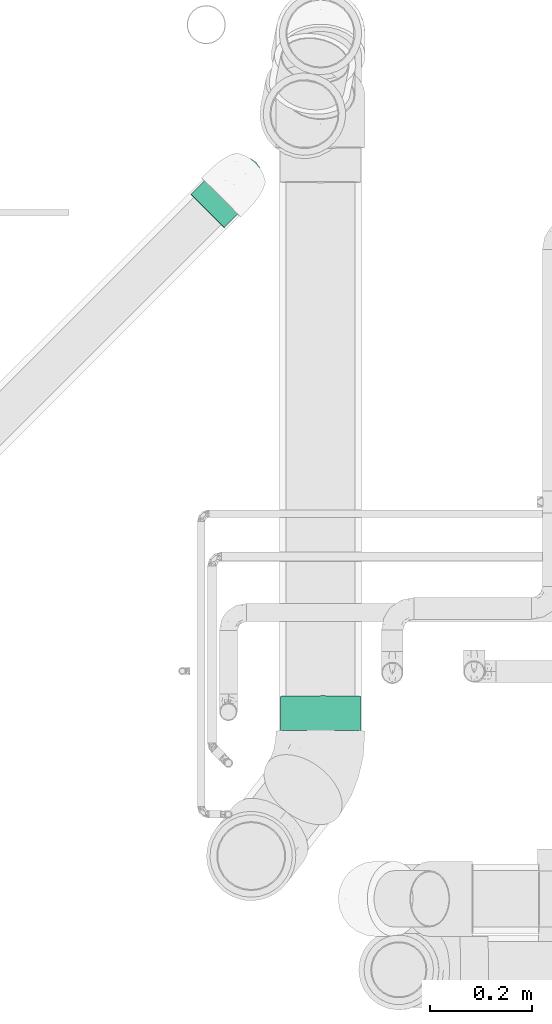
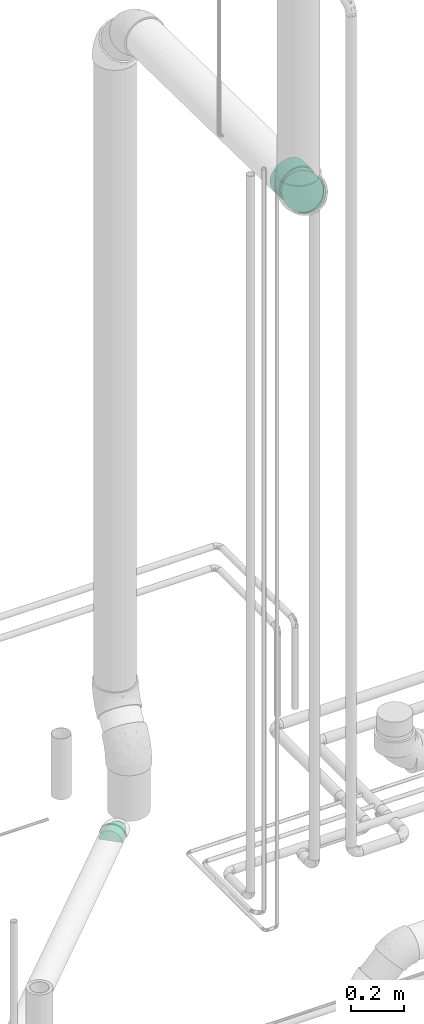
# One storey, part 133 of 156: 2 flow fittings.
"""IFC2X3 building model written with IfcOpenShell, lengths in millimetres."""

from ifc_helpers import new_model, entity, si_unit, converted_unit, derived_unit, direction, frame, origin_with_axes, place, context, subcontext, project, spatial, open_shell, faceted_brep, surface_model, source, transform, mapped, type_object, element, save


model = new_model("IFC2X3")

# Units and contexts
model_context = context("Model", 3, precision=0.01, world=frame((0.0, 4.29681676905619e-09, 0.0)), true_north=direction((4.01073788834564e-13, 1.0)))
plan_context = context("Plan", 3, precision=0.01, world=frame((0.0, 4.29681676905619e-09, 0.0)), true_north=direction((4.01073788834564e-13, 1.0)))
body_context = subcontext(model_context, "Body", "Model", "MODEL_VIEW")
ifc_project = project(units=[converted_unit("PLANEANGLEUNIT", "DEGREE", entity("IfcPositiveLengthMeasure", 0.0174532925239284), si_unit("PLANEANGLEUNIT", "RADIAN"), dimensions=[0, 0, 0, 0, 0, 0, 0]), si_unit("AREAUNIT", "SQUARE_METRE"), si_unit("LENGTHUNIT", "METRE", prefix="MILLI"), si_unit("MASSUNIT", "GRAM", prefix="KILO"), si_unit("POWERUNIT", "WATT"), si_unit("PRESSUREUNIT", "PASCAL", prefix="KILO"), si_unit("FORCEUNIT", "NEWTON", prefix="KILO"), si_unit("ELECTRICVOLTAGEUNIT", "VOLT"), si_unit("ELECTRICCURRENTUNIT", "AMPERE"), si_unit("THERMODYNAMICTEMPERATUREUNIT", "DEGREE_CELSIUS"), si_unit("TIMEUNIT", "SECOND"), si_unit("VOLUMEUNIT", "CUBIC_METRE"), derived_unit("LINEARVELOCITYUNIT", [(si_unit("LENGTHUNIT", "METRE"), 1), (si_unit("TIMEUNIT", "SECOND"), -1)]), derived_unit("VOLUMETRICFLOWRATEUNIT", [(si_unit("VOLUMEUNIT", "CUBIC_METRE"), 1), (si_unit("TIMEUNIT", "SECOND"), -1)]), derived_unit("THERMALTRANSMITTANCEUNIT", [(si_unit("POWERUNIT", "WATT"), 1), (si_unit("THERMODYNAMICTEMPERATUREUNIT", "KELVIN"), -1), (si_unit("AREAUNIT", "SQUARE_METRE"), -1)]), derived_unit("SOUNDPRESSUREUNIT", [(si_unit("PRESSUREUNIT", "PASCAL"), 1)])], contexts=[model_context, plan_context])

# Site, building, storey
site_placement = place(None, frame((0.0, -4.29681676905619e-09, 0.0), z_axis=(0.0, 0.0, 1.0), x_axis=(1.0, 0.0, 0.0)))
site = spatial("IfcSite", under=ifc_project, at=site_placement, CompositionType="ELEMENT")
building_placement = place(site_placement, frame((0.0, 4.29681676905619e-09, 0.0), z_axis=(0.0, 0.0, 1.0), x_axis=(1.0, 0.0, 0.0)))
building = spatial("IfcBuilding", under=site, at=building_placement, Name="mc-building", CompositionType="ELEMENT")
storey_placement = place(building_placement, frame((0.0, 0.0, 205200.0), z_axis=(0.0, 0.0, 1.0), x_axis=(1.0, 0.0, 0.0)))
storey = spatial("IfcBuildingStorey", under=building, at=storey_placement, Name="Nivå D + 1,2 m", CompositionType="ELEMENT", Elevation=205200.0)

# Flow fittings
pipe_fitting_type = type_object("IfcPipeFittingType", Name="magi_sewer_bend_001", PredefinedType="BEND")
shared_shape = source(origin_with_axes(), body_context, "Body", "SurfaceModel", [
    surface_model("IfcShellBasedSurfaceModel", [(-138.35467, -39.625, -68.63251), (-138.35467, 76.54962, -20.51141), (-138.35467, -20.51141, -76.54962), (-138.35467, -56.03821, -56.03821), (-138.35467, -68.63251, -39.625), (-138.35467, -76.54962, -20.51141), (-138.35467, -79.25, 0.0), (-138.35467, -76.54962, 20.51141), (-138.35467, 20.51141, -76.54962), (-138.35467, 68.63251, -39.625), (-138.35467, 39.625, -68.63251), (-138.35467, 0.0, -79.25), (-138.35467, 56.03821, -56.03821), (-138.35467, -68.63251, 39.625), (-138.35467, -56.03821, 56.03821), (-138.35467, -39.625, 68.63251), (-138.35467, -20.51141, 76.54962), (-138.35467, 0.0, 79.25), (-138.35467, 76.54962, 20.51141), (-138.35467, 20.51141, 76.54962), (-138.35467, 56.03821, 56.03821), (-138.35467, 68.63251, 39.625), (-138.35467, 79.25, 0.0), (-138.35467, 39.625, 68.63251), (-70.85467, 0.0, 79.25), (-70.85467, -20.51141, 76.54962), (-70.85467, -39.625, 68.63251), (-70.85467, 20.51141, 76.54962), (-70.85467, -56.03821, 56.03821), (-70.85467, -68.63251, 39.625), (-70.85467, -76.54962, 20.51141), (-70.85467, 56.03821, 56.03821), (-70.85467, 39.625, 68.63251), (-70.85467, 76.54962, 20.51141), (-70.85467, 68.63251, 39.625), (-70.85467, 76.54962, -20.51141), (-70.85467, 79.25, 0.0), (-70.85467, -79.25, 0.0), (-70.85467, -76.54962, -20.51141), (-70.85467, -68.63251, -39.625), (-70.85467, -56.03821, -56.03821), (-70.85467, -39.625, -68.63251), (-70.85467, -20.51141, -76.54962), (-70.85467, 0.0, -79.25), (-70.85467, 68.63251, -39.625), (-70.85467, 39.625, -68.63251), (-70.85467, 56.03821, -56.03821), (-70.85467, 20.51141, -76.54962), (33.69257, 150.72242, 39.625), (27.53852, 155.70321, -20.51141), (27.53852, 155.70321, 20.51141), (43.48225, 142.79912, 56.03821), (71.0976, 120.4486, -76.54962), (56.24041, 132.47329, 68.63251), (71.0976, 120.4486, 76.54962), (87.04133, 107.54451, 79.25), (87.04133, 107.54451, -79.25), (33.69257, 150.72242, -39.625), (25.43949, 157.40206, 0.0), (43.48225, 142.79912, -56.03821), (56.24041, 132.47329, -68.63251), (140.39009, 64.3666, 39.625), (102.98507, 94.64043, 76.54962), (117.84225, 82.61573, 68.63251), (130.60041, 72.2899, 56.03821), (146.54414, 59.38581, -20.51141), (146.54414, 59.38581, 20.51141), (148.64317, 57.68696, 0.0), (102.98507, 94.64043, -76.54962), (130.60041, 72.2899, -56.03821), (117.84225, 82.61573, -68.63251), (140.39009, 64.3666, -39.625), (104.07871, 6.91737, 20.51141), (60.51963, 42.17198, -76.54962), (106.17775, 5.21851, 0.0), (60.51963, 42.17198, 76.54962), (97.92466, 11.89816, 39.625), (75.37683, 30.14729, 68.63251), (88.13499, 19.82145, 56.03821), (104.07871, 6.91737, -20.51141), (88.13499, 19.82145, -56.03821), (97.92466, 11.89816, -39.625), (75.37683, 30.14729, -68.63251), (28.63218, 67.98015, -76.54962), (44.57591, 55.07607, -79.25), (44.57591, 55.07607, 79.25), (28.63218, 67.98015, 76.54962), (13.77499, 80.00485, 68.63251), (-14.9269, 103.23477, -20.51141), (1.01683, 90.33068, 56.03821), (-8.77285, 98.25398, 39.625), (-14.9269, 103.23477, 20.51141), (1.01683, 90.33068, -56.03821), (13.77499, 80.00485, -68.63251), (-8.77285, 98.25398, -39.625), (-17.02593, 104.93362, 0.0), (-70.85467, 0.0, -74.25), (-70.85467, -52.50268, -52.50268), (-70.85467, 19.21731, -71.71999), (-70.85467, 37.125, -64.30238), (-70.85467, 52.50268, -52.50268), (-70.85467, 71.71999, -19.21731), (-70.85467, 64.30238, -37.125), (-70.85467, -64.30238, -37.125), (-70.85467, -37.125, -64.30238), (-70.85467, -19.21731, -71.71999), (-70.85467, -71.71999, -19.21731), (-70.85467, -74.25, 0.0), (-70.85467, -71.71999, 19.21731), (-70.85467, 71.71999, 19.21731), (-70.85467, 19.21731, 71.71999), (-70.85467, 64.30238, 37.125), (-70.85467, 52.50268, 52.50268), (-70.85467, 37.125, 64.30238), (-70.85467, 0.0, 74.25), (-70.85467, -64.30238, 37.125), (-70.85467, -52.50268, 52.50268), (-70.85467, -37.125, 64.30238), (-70.85467, -19.21731, 71.71999), (-70.85467, 74.25, 0.0), (29.63809, 67.16601, -71.71999), (85.38678, 22.04572, -52.50268), (44.57591, 55.07607, -74.25), (3.76503, 88.10641, -52.50268), (15.71826, 78.43205, -64.30238), (-5.407, 95.52982, -37.125), (-11.17278, 100.19636, -19.21731), (100.3246, 9.95577, -19.21731), (59.51372, 42.98612, -71.71999), (73.43355, 31.72008, -64.30238), (94.55882, 14.62232, -37.125), (100.3246, 9.95577, 19.21731), (102.29119, 8.3641, 0.0), (-11.17278, 100.19636, 19.21731), (3.76503, 88.10641, 52.50268), (-5.407, 95.52982, 37.125), (15.71826, 78.43205, 64.30238), (29.63809, 67.16601, 71.71999), (44.57591, 55.07607, 74.25), (85.38678, 22.04572, 52.50268), (94.55882, 14.62232, 37.125), (73.43355, 31.72008, 64.30238), (59.51372, 42.98612, 71.71999), (-13.13938, 101.78804, 0.0), (-20.00351, -54.72065, 42.35262), (-33.51824, -66.33954, 25.97132), (-41.72114, -71.31136, 12.24336), (-21.68013, -68.75429, 0.0), (-33.07499, 11.95573, 73.93561), (30.36894, 23.84422, 73.26108), (-33.92031, -43.67813, 57.32088), (-25.57432, -25.54051, 67.31432), (14.55786, -30.51093, 55.03336), (-31.31511, 65.63143, 47.96075), (-0.51886, 1.08745, 72.75337), (-37.63998, -8.60527, 73.26108), (-39.94301, 47.71998, 60.47043), (6.64518, 54.40139, 69.32357), (-11.72478, -64.83301, 14.21815), (72.65331, -15.68128, 25.97132), (-17.37954, 36.42473, 70.15382), (-46.46736, 29.05949, 69.32357), (16.95867, -51.48169, 25.00712), (20.12742, -41.13153, 41.11404), (6.29946, -13.20267, 67.62137), (35.94215, 3.8112, 67.31432), (-38.18042, 80.02002, 15.45203), (-53.34192, 69.9283, 29.81657), (55.29132, -1.11206, 57.32088), (-49.13989, 77.49626, 0.0), (-30.99687, 78.04096, 30.826), (45.39792, -34.4366, 29.24091), (55.11948, -18.87679, 42.35262), (11.51474, 33.23108, 73.93561), (25.06793, -52.53835, 0.0), (-10.20801, 62.4681, 60.35974), (81.67854, -12.43295, 12.24336), (39.6658, -43.35938, 14.01431), (-11.40113, 10.30798, 74.22469), (-11.64959, 24.41567, 73.42843), (-29.32388, 86.95119, 0.0), (61.84954, -28.43837, 15.22055), (67.08277, -26.40233, 0.0), (65.24492, -10.04704, -43.11396), (45.98542, -9.30833, -56.77158), (24.00125, 18.1764, -73.15772), (-21.65452, 71.74338, -47.18581), (-47.62232, 60.66243, -46.8024), (-35.90498, 75.25107, -31.27839), (-36.77338, 30.6865, -69.60266), (-2.53212, 5.30692, -73.55193), (6.27804, -16.28591, -66.29117), (-29.22831, -7.22133, -73.15772), (-38.17368, 80.00589, -15.52545), (43.0761, 10.14818, -67.59484), (-0.71816, 47.88974, -69.60266), (19.17833, -51.94742, -20.93098), (-21.92423, -64.2932, -25.19026), (14.19958, -44.46014, -40.28086), (-42.10983, 10.48081, -73.86828), (-9.02449, 18.91388, -74.08689), (-33.53244, -57.07798, -43.13076), (-22.95974, -41.85313, -56.82913), (43.6496, -31.55201, -36.11057), (63.76868, -23.40603, -25.19026), (42.65931, -22.92671, -47.45866), (-34.98821, -27.0991, -67.59484), (13.46656, -29.71902, -56.08263), (-50.44932, 45.82758, -59.94091), (-24.99009, 52.37519, -61.23374), (-3.88371, 68.0457, -59.94091), (18.34519, 39.32606, -73.86828)], [open_shell([[[0, 1, 2]], [[3, 1, 0]], [[4, 5, 6]], [[3, 4, 7]], [[3, 7, 1]], [[8, 9, 10]], [[1, 8, 11]], [[10, 9, 12]], [[9, 8, 1]], [[11, 2, 1]], [[7, 4, 6]], [[7, 13, 14]], [[7, 14, 15]], [[15, 16, 17]], [[15, 18, 1]], [[19, 15, 17]], [[18, 20, 21]], [[22, 1, 18]], [[20, 19, 23]], [[19, 20, 18]], [[15, 19, 18]], [[1, 7, 15]], [[24, 25, 26]], [[27, 24, 26]], [[28, 29, 30]], [[28, 30, 26]], [[27, 26, 30]], [[27, 31, 32]], [[31, 27, 33]], [[31, 33, 34]], [[27, 30, 33]], [[33, 35, 36]], [[33, 30, 35]], [[37, 38, 39]], [[37, 39, 40]], [[41, 42, 37]], [[41, 37, 40]], [[37, 42, 43]], [[44, 45, 46]], [[47, 44, 35]], [[44, 47, 45]], [[47, 35, 43]], [[35, 37, 43]], [[37, 35, 30]], [[1, 36, 35]], [[10, 45, 47]], [[45, 12, 46]], [[8, 47, 43]], [[35, 9, 1]], [[1, 22, 36]], [[44, 12, 9]], [[44, 46, 12]], [[12, 45, 10]], [[47, 8, 10]], [[44, 9, 35]], [[43, 11, 8]], [[2, 42, 41]], [[40, 0, 41]], [[4, 39, 38]], [[40, 39, 3]], [[5, 38, 37]], [[42, 2, 11]], [[41, 0, 2]], [[40, 3, 0]], [[39, 4, 3]], [[5, 4, 38]], [[37, 6, 5]], [[42, 11, 43]], [[30, 7, 37]], [[29, 13, 30]], [[29, 28, 14]], [[28, 26, 15]], [[30, 13, 7]], [[7, 6, 37]], [[25, 16, 15]], [[16, 25, 24]], [[14, 28, 15]], [[14, 13, 29]], [[26, 25, 15]], [[24, 17, 16]], [[19, 27, 32]], [[31, 23, 32]], [[21, 34, 33]], [[31, 34, 20]], [[18, 33, 36]], [[27, 19, 17]], [[32, 23, 19]], [[31, 20, 23]], [[34, 21, 20]], [[18, 21, 33]], [[36, 22, 18]], [[27, 17, 24]], [[48, 49, 50]], [[51, 52, 48]], [[53, 54, 55]], [[51, 53, 56]], [[51, 56, 52]], [[49, 52, 57]], [[49, 58, 50]], [[59, 52, 60]], [[52, 59, 57]], [[48, 52, 49]], [[56, 53, 55]], [[61, 62, 63]], [[61, 63, 64]], [[65, 61, 66]], [[61, 65, 62]], [[65, 66, 67]], [[68, 69, 70]], [[56, 55, 68]], [[69, 65, 71]], [[69, 68, 62]], [[65, 69, 62]], [[68, 55, 62]], [[72, 73, 74]], [[75, 72, 76]], [[77, 75, 76]], [[77, 76, 78]], [[73, 72, 75]], [[79, 80, 81]], [[79, 74, 80]], [[80, 73, 82]], [[74, 73, 80]], [[73, 83, 84]], [[73, 75, 83]], [[85, 86, 87]], [[75, 87, 83]], [[88, 89, 90]], [[87, 89, 88]], [[88, 90, 91]], [[83, 92, 93]], [[92, 83, 94]], [[83, 88, 94]], [[83, 87, 88]], [[91, 95, 88]], [[87, 75, 85]], [[52, 84, 83]], [[57, 94, 88]], [[94, 59, 92]], [[49, 88, 95]], [[83, 60, 52]], [[52, 56, 84]], [[93, 59, 60]], [[93, 92, 59]], [[59, 94, 57]], [[88, 49, 57]], [[93, 60, 83]], [[95, 58, 49]], [[50, 91, 90]], [[89, 48, 90]], [[53, 87, 86]], [[89, 87, 51]], [[54, 86, 85]], [[91, 50, 58]], [[90, 48, 50]], [[89, 51, 48]], [[87, 53, 51]], [[54, 53, 86]], [[85, 55, 54]], [[91, 58, 95]], [[75, 62, 85]], [[77, 63, 75]], [[77, 78, 64]], [[78, 76, 61]], [[75, 63, 62]], [[62, 55, 85]], [[72, 66, 61]], [[66, 72, 74]], [[64, 78, 61]], [[64, 63, 77]], [[76, 72, 61]], [[74, 67, 66]], [[65, 79, 81]], [[80, 71, 81]], [[70, 82, 73]], [[80, 82, 69]], [[68, 73, 84]], [[79, 65, 67]], [[81, 71, 65]], [[80, 69, 71]], [[82, 70, 69]], [[68, 70, 73]], [[84, 56, 68]], [[79, 67, 74]], [[96, 97, 98]], [[99, 98, 100]], [[101, 102, 100]], [[100, 98, 97]], [[101, 100, 103]], [[104, 97, 105]], [[97, 96, 105]], [[97, 103, 100]], [[101, 103, 106]], [[107, 108, 106]], [[109, 101, 106]], [[110, 109, 106]], [[111, 109, 112]], [[109, 110, 113]], [[112, 109, 113]], [[106, 114, 110]], [[115, 116, 108]], [[117, 108, 116]], [[118, 114, 117]], [[106, 108, 117]], [[106, 117, 114]], [[119, 101, 109]], [[120, 121, 122]], [[123, 120, 124]], [[123, 125, 126]], [[123, 126, 120]], [[127, 120, 126]], [[128, 121, 129]], [[128, 122, 121]], [[121, 127, 130]], [[120, 127, 121]], [[127, 131, 132]], [[127, 126, 131]], [[131, 126, 133]], [[134, 133, 135]], [[136, 137, 133]], [[136, 133, 134]], [[138, 133, 137]], [[131, 139, 140]], [[139, 131, 141]], [[141, 138, 142]], [[138, 141, 131]], [[131, 133, 138]], [[133, 126, 143]], [[144, 115, 145]], [[146, 107, 147]], [[110, 114, 148]], [[142, 138, 149]], [[117, 150, 151]], [[151, 150, 152]], [[134, 135, 153]], [[154, 155, 151]], [[155, 114, 118]], [[112, 113, 156]], [[118, 117, 151]], [[137, 136, 157]], [[158, 145, 146]], [[156, 153, 112]], [[140, 159, 131]], [[153, 111, 112]], [[160, 161, 148]], [[144, 162, 163]], [[164, 152, 165]], [[166, 109, 167]], [[139, 141, 168]], [[169, 119, 109]], [[153, 170, 167]], [[151, 164, 154]], [[110, 161, 113]], [[117, 116, 150]], [[145, 162, 144]], [[145, 115, 108]], [[165, 142, 149]], [[162, 171, 163]], [[133, 166, 170]], [[165, 141, 142]], [[140, 139, 172]], [[137, 157, 173]], [[158, 174, 162]], [[172, 159, 140]], [[160, 157, 175]], [[165, 168, 141]], [[108, 146, 145]], [[132, 131, 176]], [[162, 177, 171]], [[161, 156, 113]], [[178, 173, 179]], [[169, 166, 180]], [[116, 115, 144]], [[143, 180, 133]], [[155, 148, 114]], [[170, 153, 135]], [[111, 167, 109]], [[134, 175, 136]], [[173, 178, 149]], [[133, 170, 135]], [[166, 133, 180]], [[153, 156, 175]], [[137, 173, 138]], [[148, 179, 160]], [[109, 166, 169]], [[171, 177, 181]], [[171, 159, 172]], [[168, 152, 172]], [[176, 131, 159]], [[116, 144, 150]], [[152, 150, 144]], [[152, 168, 165]], [[172, 139, 168]], [[153, 175, 134]], [[160, 175, 156]], [[151, 155, 118]], [[155, 154, 178]], [[173, 149, 138]], [[165, 149, 154]], [[148, 161, 110]], [[156, 161, 160]], [[175, 157, 136]], [[173, 157, 160]], [[163, 172, 152]], [[162, 174, 177]], [[172, 163, 171]], [[144, 163, 152]], [[174, 182, 177]], [[182, 176, 181]], [[152, 164, 151]], [[165, 154, 164]], [[178, 179, 148]], [[173, 160, 179]], [[155, 178, 148]], [[178, 154, 149]], [[153, 167, 111]], [[166, 167, 170]], [[107, 146, 108]], [[158, 146, 147]], [[174, 158, 147]], [[162, 145, 158]], [[181, 176, 159]], [[132, 176, 182]], [[171, 181, 159]], [[182, 181, 177]], [[121, 183, 184]], [[122, 128, 185]], [[186, 187, 188]], [[99, 189, 98]], [[119, 169, 101]], [[190, 191, 192]], [[193, 101, 169]], [[128, 194, 185]], [[100, 102, 187]], [[124, 120, 195]], [[196, 197, 198]], [[199, 96, 98]], [[103, 197, 106]], [[185, 190, 200]], [[147, 107, 106]], [[198, 201, 202]], [[106, 197, 147]], [[203, 183, 204]], [[97, 104, 202]], [[183, 203, 205]], [[97, 201, 103]], [[105, 206, 104]], [[105, 96, 192]], [[207, 191, 184]], [[126, 193, 180]], [[101, 193, 188]], [[193, 169, 180]], [[130, 204, 183]], [[180, 143, 126]], [[125, 123, 186]], [[102, 101, 188]], [[208, 189, 99]], [[201, 97, 202]], [[188, 125, 186]], [[195, 209, 210]], [[192, 206, 105]], [[211, 120, 122]], [[123, 124, 210]], [[96, 199, 192]], [[208, 99, 100]], [[174, 204, 182]], [[211, 185, 200]], [[185, 194, 191]], [[191, 207, 202]], [[121, 130, 183]], [[196, 204, 174]], [[197, 196, 147]], [[184, 129, 121]], [[127, 182, 204]], [[128, 129, 194]], [[132, 182, 127]], [[211, 195, 120]], [[200, 199, 189]], [[127, 204, 130]], [[126, 125, 188]], [[201, 198, 197]], [[209, 195, 189]], [[193, 126, 188]], [[200, 189, 195]], [[206, 191, 202]], [[197, 103, 201]], [[210, 186, 123]], [[209, 208, 187]], [[129, 184, 194]], [[191, 194, 184]], [[191, 206, 192]], [[202, 104, 206]], [[189, 199, 98]], [[192, 199, 200]], [[185, 211, 122]], [[195, 211, 200]], [[188, 187, 102]], [[209, 187, 186]], [[196, 198, 203]], [[147, 196, 174]], [[187, 208, 100]], [[189, 208, 209]], [[195, 210, 124]], [[186, 210, 209]], [[205, 184, 183]], [[198, 202, 207]], [[191, 190, 185]], [[192, 200, 190]], [[196, 203, 204]], [[198, 207, 205]], [[198, 205, 203]], [[207, 184, 205]]])]),
])
flow_fitting_1_placement = place(storey_placement, frame((324308.8595, 462982.08154, 7541.05024000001), z_axis=(-0.782815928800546, -0.0103689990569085, -0.622166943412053), x_axis=(-1.81753429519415e-07, -0.999861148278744, 0.0166638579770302)))
element("IfcFlowFitting", 1, at=flow_fitting_1_placement, inside=storey, type_object=pipe_fitting_type, Name="magi_sewer_bend_001", context=body_context, shape_type="MappedRepresentation", body=[
    mapped(shared_shape, transform((0.0, 0.0, 0.0), scale=1.0)),
])
flow_fitting_2_placement = place(storey_placement, frame((324137.78707, 464119.04373, 3998.53398000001), z_axis=(0.707056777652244, -0.707156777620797, -7.09999776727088e-05), x_axis=(-0.499999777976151, -0.500000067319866, 0.707106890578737)))
element("IfcFlowFitting", 2, at=flow_fitting_2_placement, inside=storey, type_object=pipe_fitting_type, Name="magi_sewer_bend_001", context=body_context, shape_type="Brep", body=[
    faceted_brep([(-33.36978, -35.4453125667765, 22.4718144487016), (-33.36978, -35.4422382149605, -8.14642996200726), (-33.36978, -44.67407, -11.97038), (-33.36978, -35.4418542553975, -11.97038), (-33.36978, -35.4416058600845, -14.4442115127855), (-33.36978, -35.441319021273, -17.3009115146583), (-33.36978, -35.4409271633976, -21.2035228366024), (-33.36978, -35.4406460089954, -24.0036103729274), (-33.36978, -35.4402483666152, -27.9638310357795), (-33.36978, -35.4401305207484, -29.1374877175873), (-33.36978, -40.05367, -23.125), (-33.36978, -35.4458630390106, 27.9541061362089), (-33.36978, -44.67407, 11.97038), (-33.36978, -46.25, 0.0), (-33.36978, -35.4459810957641, 29.1298630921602), (-33.36978, -40.05367, 23.125), (-37.2227849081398, -39.2984830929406, 24.109179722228), (-37.9780703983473, -40.05367, 23.125), (-41.5869062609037, -43.6616323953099, 14.4146178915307), (-42.5995889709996, -44.67407, 11.97038), (-43.7405582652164, -45.8141701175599, 3.31045751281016), (-44.1767204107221, -46.25, 0.0), (-43.741196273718, -45.8141433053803, -3.31066117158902), (-42.6019928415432, -44.67407, -11.97038), (-41.5894835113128, -43.6613148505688, -14.4153845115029), (-37.982714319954, -40.05367, -23.125), (-37.2268331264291, -39.2976896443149, -24.1102137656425), (51.1410901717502, 49.0632004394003, 46.2120810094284), (51.1388636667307, 49.0655073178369, 1.06296587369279), (59.26292, 40.66599, 44.67407), (51.1366845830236, 49.0677586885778, -43.0610531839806), (67.01786, 32.6481, -40.05367), (81.99925, 17.15874, -11.97038), (73.67718, 25.76299, -32.70369), (78.78704, 20.47985, -23.125), (73.67718, 25.76299, 32.70369), (78.78704, 20.47985, 23.125), (83.09486, 16.02596, 0.0), (81.99925, 17.15874, 11.97038), (67.01786, 32.6481, 40.05367), (51.1366057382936, 49.0678418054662, -44.67407), (59.26292, 40.66599, -44.67407), (51.1365273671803, 49.0679179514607, -46.2129450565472), (51.83223, -5.59097, 23.125), (55.04443, -8.91209, 11.97038), (56.14006, -10.04486, 0.0), (46.72236, -0.30784, 32.70369), (40.06304, 6.57727, -40.05367), (46.72236, -0.30784, -32.70369), (55.04443, -8.91209, -11.97038), (51.83223, -5.59097, -23.125), (24.6192943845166, 22.5446732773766, 13.5759612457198), (24.6206606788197, 22.5432636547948, 41.2220212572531), (24.6165024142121, 22.5475599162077, -42.978746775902), (24.6164214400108, 22.5476491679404, -44.67407), (32.30811, 14.59516, -44.67407), (24.6163518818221, 22.5477258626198, -46.1306393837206), (24.6208323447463, 22.5430887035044, 44.67407), (32.30811, 14.59516, 44.67407), (24.6209065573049, 22.5430167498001, 46.1297768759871), (40.06304, 6.57727, 40.05367), (26.525288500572, 24.4566636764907, -46.1365637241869), (26.5436396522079, 24.4657498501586, 46.1357439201), (-33.36978, -35.4415421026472, -15.0791878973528), (-33.36978, -35.4419841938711, -10.67629), (-33.36978, -39.84444, -10.67629), (-33.36978, -35.4420423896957, -10.0967031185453), (-33.36978, -35.4421672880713, -8.85280872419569), (-33.36978, -35.4441863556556, 11.2555941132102), (-33.36978, -39.84444, 10.67629), (-33.36978, -35.4442465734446, 11.855318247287), (-33.36978, -35.4443832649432, 13.2166633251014), (-33.36978, -35.4445699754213, 15.0761600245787), (-33.36978, -35.4448933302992, 18.2965327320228), (-33.36978, -35.4451635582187, 20.9878006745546), (-33.36978, -35.72355, 20.625), (-33.36978, -41.25, 0.0), (-33.36978, -35.4409634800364, -20.8418362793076), (-33.36978, -35.72355, -20.625), (-33.36978, -35.4409568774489, -20.9075931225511), (-33.36978, -35.4409482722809, -20.9932941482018), (24.6167356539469, 22.5473253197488, -38.319447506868), (24.6166047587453, 22.547464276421, -41.0069707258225), (38.32499, 8.37426, -35.72355), (24.6165984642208, 22.5474703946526, -41.1305925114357), (31.40842, 15.52535, -39.84444), (24.6169896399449, 22.5470580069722, -33.127700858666), (24.6175826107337, 22.5464442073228, -21.109168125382), (51.68677, -5.44058, -10.67629), (48.82183, -2.4785, -20.625), (44.26438, 2.23348, -29.16816), (24.6180420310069, 22.5459692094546, -11.8030609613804), (51.68677, -5.44058, 10.67629), (52.66395, -6.45089, 0.0), (24.6183582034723, 22.5456475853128, -5.45108284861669), (24.6189960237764, 22.544986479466, 7.48525198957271), (44.26438, 2.23348, 29.16816), (48.82183, -2.4785, 20.625), (24.6192605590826, 22.5447119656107, 12.8537792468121), (24.6194875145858, 22.5444760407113, 17.4637225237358), (24.6198828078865, 22.5440696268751, 25.4481271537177), (24.6203933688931, 22.5435407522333, 35.800130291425), (31.40842, 15.52535, 39.84444), (24.6206594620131, 22.5432716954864, 41.1298234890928), (38.32499, 8.37426, 35.72355), (10.3854, -25.6758, 23.0785), (-6.9773, -35.75424, 14.37656), (-12.58846, -31.54436, 24.17669), (15.4186, -27.5228, 16.38787), (30.97886, -13.92216, 24.17669), (29.87238, -20.8492, 14.37656), (32.44003, -21.57267, 7.10056), (12.64855, -31.27098, 9.13674), (27.31044, -25.35163, 0.0), (12.65242, -31.28053, 0.0), (12.64855, -31.27098, -9.13674), (-2.0056, -37.20944, 0.0), (-8.31994, -38.05935, -7.10056), (-12.96975, -38.62192, 0.0), (-8.31994, -38.05935, 7.10056), (-6.9773, -35.75424, -14.37656), (-12.58846, -31.54436, -24.17669), (8.05165, -30.5026, -16.38787), (29.87238, -20.8492, -14.37656), (10.3854, -25.6758, -23.0785), (30.97886, -13.92216, -24.17669), (22.44563, -10.77623, -31.86051), (22.04519, 0.22499, -37.71977), (4.23177, -10.46219, -37.22197), (11.20741, 5.2927, -40.7101), (4.74994835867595, 2.68077182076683, -40.7101), (-4.75044506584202, -6.81977780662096, -39.1841884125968), (8.17361530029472, 6.104447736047, -40.7887491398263), (20.7901842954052, 18.7210534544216, -41.1149743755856), (11.0314581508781, 8.96229174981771, -40.7913837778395), (-12.2050317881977, -14.2820793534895, 37.6263475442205), (-4.74484655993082, -6.82204807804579, 39.182965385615), (4.23177, -10.46219, 37.22197), (4.76367645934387, 2.68632459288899, 40.7101), (11.20741, 5.2927, 40.7101), (8.1800773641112, 6.10271869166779, 40.7885816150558), (10.3593918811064, 8.28204374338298, 40.6904885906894), (20.7696098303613, 18.692222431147, 41.1141050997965), (22.04519, 0.22499, 37.71977), (22.44563, -10.77623, 31.86051), (6.80695, -16.8288, 33.07735), (-8.64193, -23.35059, 31.86051), (-14.6224011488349, -16.6993485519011, 36.6212362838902), (-20.0198287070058, -22.0964782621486, 33.6379907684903), (-25.160527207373, -27.236819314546, 30.0619773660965), (-27.7362480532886, -29.8123153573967, 27.8150406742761), (-14.6258831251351, -16.6954760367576, -36.6240080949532), (-20.0259132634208, -22.0958076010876, -33.6389413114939), (-8.64193, -23.35059, -31.86051), (-12.2148755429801, -14.2843670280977, -37.6265897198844), (6.80695, -16.8288, -33.07735), (-25.1684213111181, -27.238676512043, -30.0611178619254), (-27.7412607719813, -29.8117421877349, -27.8162446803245), (32.44003, -21.57267, -7.10056), (36.1734, -18.74439, 0.0), (-33.36978, -35.4581359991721, -20.970894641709)], [[[0, 1, 2]], [[1, 3, 2]], [[3, 4, 2]], [[4, 5, 2]], [[5, 6, 2]], [[6, 7, 2]], [[7, 8, 2]], [[8, 9, 10, 2]], [[11, 0, 2, 12]], [[13, 12, 2]], [[14, 11, 12, 15]], [[16, 14, 15]], [[17, 16, 15]], [[18, 17, 15, 12]], [[19, 18, 12]], [[20, 19, 12, 13]], [[21, 20, 13]], [[22, 21, 13]], [[23, 22, 13, 2]], [[24, 23, 2]], [[25, 24, 2, 10]], [[26, 25, 10]], [[9, 26, 10]], [[27, 28, 29]], [[28, 30, 31, 29]], [[31, 32, 29]], [[31, 33, 32]], [[34, 32, 33]], [[35, 29, 32]], [[36, 35, 32]], [[37, 36, 32]], [[37, 38, 36]], [[35, 39, 29]], [[30, 40, 41, 31]], [[40, 42, 41]], [[43, 44, 45]], [[46, 43, 45]], [[47, 46, 45]], [[47, 45, 48]], [[48, 45, 49]], [[50, 48, 49]], [[51, 52, 46, 47]], [[53, 51, 47]], [[54, 53, 47, 55]], [[56, 54, 55]], [[52, 57, 58, 46]], [[57, 59, 58]], [[58, 60, 46]], [[42, 61, 41]], [[61, 56, 55, 41]], [[55, 31, 41]], [[47, 31, 55]], [[33, 31, 47]], [[33, 47, 48]], [[34, 33, 48]], [[50, 34, 48]], [[32, 34, 50]], [[49, 32, 50]], [[49, 37, 32]], [[45, 37, 49]], [[37, 45, 44]], [[44, 38, 37]], [[44, 43, 38]], [[43, 36, 38]], [[43, 46, 36]], [[36, 46, 35]], [[35, 46, 60]], [[60, 39, 35]], [[58, 39, 60]], [[29, 39, 58]], [[59, 62, 29, 58]], [[62, 27, 29]], [[63, 64, 65]], [[64, 66, 65]], [[66, 67, 65]], [[67, 68, 69, 65]], [[68, 70, 69]], [[70, 71, 69]], [[71, 72, 69]], [[72, 73, 69]], [[73, 74, 75, 69]], [[65, 69, 76]], [[77, 63, 65, 78]], [[79, 77, 78]], [[80, 79, 78]], [[81, 82, 83]], [[82, 84, 85, 83]], [[86, 81, 83]], [[87, 86, 83, 88]], [[89, 88, 83]], [[90, 89, 83]], [[91, 87, 88, 92]], [[93, 92, 88]], [[94, 91, 92]], [[95, 94, 92, 96]], [[97, 96, 92]], [[98, 95, 96]], [[99, 98, 96]], [[100, 99, 96]], [[101, 100, 96, 102]], [[103, 101, 102]], [[104, 102, 96]], [[105, 106, 107]], [[105, 108, 106]], [[108, 105, 109]], [[110, 108, 109]], [[109, 97, 110]], [[97, 92, 110]], [[110, 92, 111]], [[110, 111, 112]], [[113, 112, 111]], [[114, 112, 113]], [[114, 113, 115]], [[114, 115, 116]], [[115, 117, 116]], [[116, 117, 118]], [[118, 117, 65]], [[65, 76, 118]], [[118, 76, 69]], [[119, 118, 69]], [[106, 119, 69]], [[106, 69, 75]], [[112, 119, 106]], [[119, 112, 116]], [[120, 65, 117]], [[120, 78, 65]], [[78, 120, 121]], [[120, 122, 121]], [[120, 115, 122]], [[115, 123, 122]], [[124, 122, 123]], [[123, 125, 124]], [[89, 125, 123]], [[90, 125, 89]], [[90, 126, 125]], [[126, 90, 83]], [[83, 127, 126]], [[126, 127, 128]], [[128, 127, 129]], [[130, 131, 128, 129]], [[132, 130, 129]], [[133, 134, 129]], [[84, 133, 129, 85]], [[135, 136, 137]], [[136, 138, 139, 137]], [[138, 140, 139]], [[140, 141, 139]], [[141, 142, 139]], [[142, 103, 102, 139]], [[102, 143, 139]], [[143, 102, 104]], [[143, 104, 144]], [[137, 143, 144]], [[145, 137, 144]], [[144, 105, 145]], [[146, 145, 105]], [[137, 145, 146]], [[144, 104, 96]], [[96, 109, 144]], [[139, 143, 137]], [[147, 135, 137, 146]], [[148, 147, 146]], [[149, 148, 146]], [[150, 149, 146, 107]], [[74, 150, 107, 75]], [[151, 152, 153]], [[154, 151, 153, 128]], [[155, 128, 153]], [[153, 124, 155]], [[126, 155, 124]], [[124, 153, 121]], [[156, 157, 121, 153]], [[152, 156, 153]], [[134, 132, 129]], [[131, 154, 128]], [[85, 129, 127]], [[128, 155, 126]], [[83, 85, 127]], [[123, 88, 89]], [[123, 158, 88]], [[158, 159, 88]], [[159, 93, 88]], [[92, 93, 159]], [[113, 159, 158]], [[124, 125, 126]], [[123, 115, 158]], [[122, 124, 121]], [[157, 160, 78, 121]], [[119, 116, 118]], [[115, 120, 117]], [[113, 158, 115]], [[114, 116, 112]], [[113, 111, 159]], [[159, 111, 92]], [[109, 96, 97]], [[112, 108, 110]], [[105, 144, 109]], [[112, 106, 108]], [[75, 107, 106]], [[105, 107, 146]], [[11, 14, 16, 17, 18, 19, 20, 21, 22, 23, 24, 25, 26, 9, 8, 7, 6, 5, 4, 3, 1, 0]], [[62, 59, 57, 52, 51, 53, 54, 56, 61, 42, 40, 30, 28, 27]], [[77, 80, 157, 156, 152, 151, 154, 131, 130, 132, 134, 133, 84, 82, 81, 86, 87, 91, 94, 95, 98, 99, 100, 101, 52, 142, 141, 140, 138, 136, 135, 147, 148, 149, 150, 74, 73, 72, 71, 70, 68, 67, 66, 64, 63]]], orient=[[False], [False], [False], [False], [False], [False], [False], [False], [False], [False], [False], [False], [False], [False], [False], [False], [False], [False], [False], [False], [False], [False], [False], [False], [False], [False], [False], [False], [False], [False], [False], [False], [False], [False], [False], [False], [False], [False], [False], [False], [False], [False], [False], [False], [False], [False], [False], [False], [False], [False], [False], [False], [False], [False], [False], [False], [False], [False], [False], [False], [False], [False], [False], [False], [False], [False], [False], [False], [False], [False], [False], [False], [False], [False], [False], [False], [False], [False], [False], [False], [False], [False], [False], [False], [False], [False], [False], [False], [False], [False], [False], [False], [False], [False], [False], [False], [False], [False], [False], [False], [False], [False], [False], [False], [False], [False], [False], [False], [False], [False], [False], [False], [False], [False], [False], [False], [False], [False], [False], [False], [False], [False], [False], [False], [False], [False], [False], [False], [False], [False], [False], [False], [False], [False], [False], [False], [False], [False], [False], [False], [False], [False], [False], [False], [False], [False], [False], [False], [False], [False], [False], [False], [False], [False], [False], [False], [False], [False], [False], [False], [False], [False], [False], [False], [False], [False], [False], [False], [False], [False], [False], [False], [False], [False], [False], [False], [False], [False], [False], [False], [False], [False], [False], [False], [False], [False], [False], [False], [False], [False], [False], [False], [False], [False], [False], [False], [False], [False], [False], [False], [False], [False], [False]]),
])

save(model, "model.ifc")
